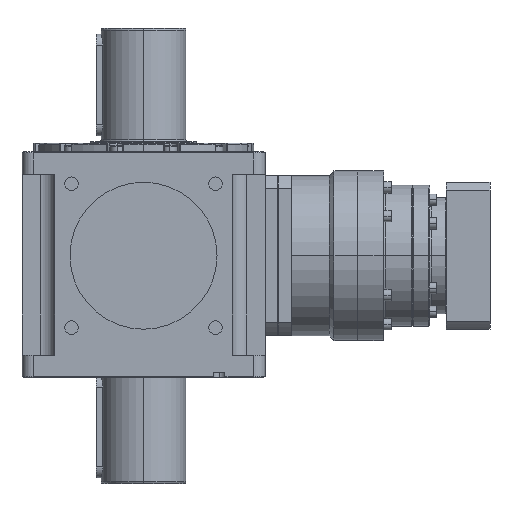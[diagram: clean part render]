
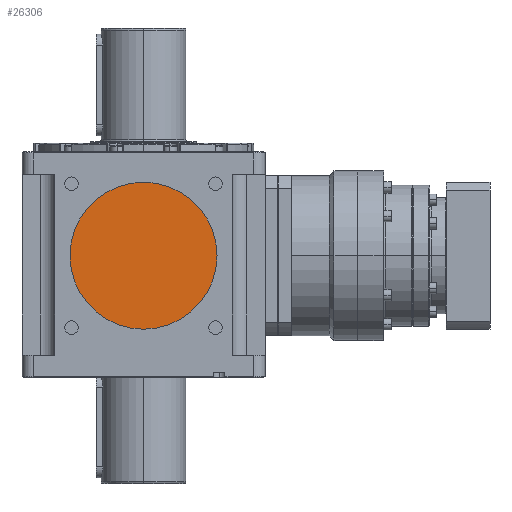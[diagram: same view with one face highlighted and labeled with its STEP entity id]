
A CAD part, left-side view. The second image highlights one B-rep face of the part: STEP entity #26306.
In plain terms, the highlighted planar face has unit normal (-1, 0, 0).
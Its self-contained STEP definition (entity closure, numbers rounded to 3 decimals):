
#2669 = CARTESIAN_POINT ( 'NONE',  ( -102.5, 0., 0. ) ) ;
#2947 = DIRECTION ( 'NONE',  ( 0., -1., 0. ) ) ;
#4136 = PLANE ( 'NONE',  #15886 ) ;
#6060 = VERTEX_POINT ( 'NONE', #24243 ) ;
#6080 = DIRECTION ( 'NONE',  ( 0., -1., 0. ) ) ;
#6344 = VERTEX_POINT ( 'NONE', #15292 ) ;
#8299 = FACE_OUTER_BOUND ( 'NONE', #26124, .T. ) ;
#10887 = AXIS2_PLACEMENT_3D ( 'NONE', #2669, #19777, #2947 ) ;
#12293 = DIRECTION ( 'NONE',  ( -1., 0., 0. ) ) ;
#13523 = CIRCLE ( 'NONE', #10887, 65. ) ;
#15292 = CARTESIAN_POINT ( 'NONE',  ( -102.5, 65., 0. ) ) ;
#15886 = AXIS2_PLACEMENT_3D ( 'NONE', #26739, #12293, #6080 ) ;
#16347 = DIRECTION ( 'NONE',  ( 0., -1., 0. ) ) ;
#17041 = EDGE_CURVE ( 'NONE', #6344, #6060, #26691, .T. ) ;
#18437 = EDGE_CURVE ( 'NONE', #6060, #6344, #13523, .T. ) ;
#19777 = DIRECTION ( 'NONE',  ( -1., 0., 0. ) ) ;
#22416 = CARTESIAN_POINT ( 'NONE',  ( -102.5, 0., 0. ) ) ;
#23948 = ORIENTED_EDGE ( 'NONE', *, *, #18437, .T. ) ;
#24243 = CARTESIAN_POINT ( 'NONE',  ( -102.5, -65., 0. ) ) ;
#25358 = AXIS2_PLACEMENT_3D ( 'NONE', #22416, #27066, #16347 ) ;
#26124 = EDGE_LOOP ( 'NONE', ( #23948, #26811 ) ) ;
#26306 = ADVANCED_FACE ( 'NONE', ( #8299 ), #4136, .T. ) ;
#26691 = CIRCLE ( 'NONE', #25358, 65. ) ;
#26739 = CARTESIAN_POINT ( 'NONE',  ( -102.5, 0., 0. ) ) ;
#26811 = ORIENTED_EDGE ( 'NONE', *, *, #17041, .T. ) ;
#27066 = DIRECTION ( 'NONE',  ( -1., 0., 0. ) ) ;
